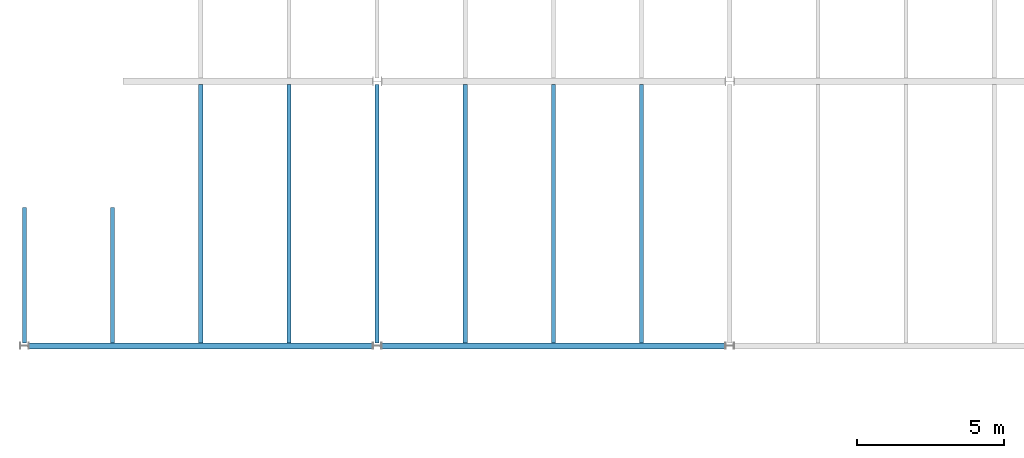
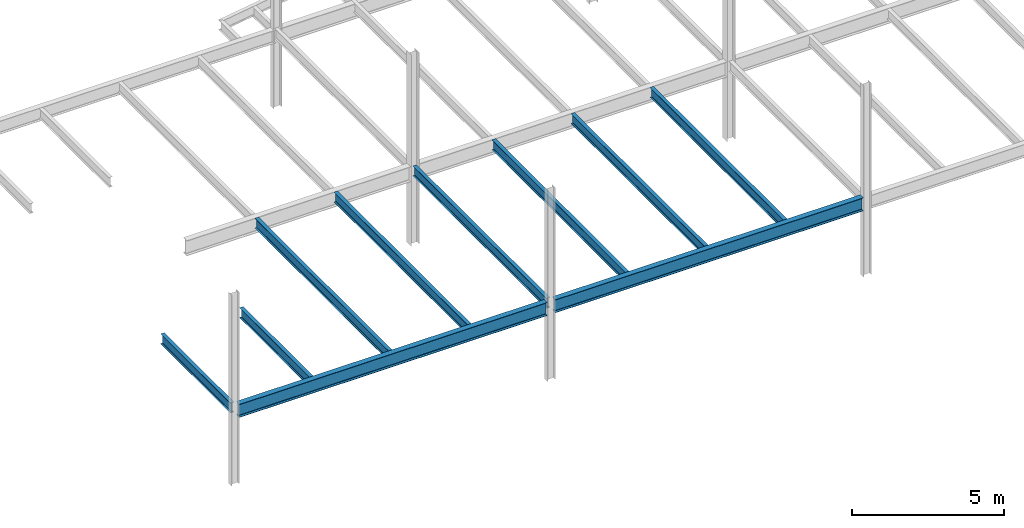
# One storey, part 3 of 23: 10 beams.
"""IFC2X3 building model written with IfcOpenShell, lengths in millimetres."""

from ifc_helpers import new_model, si_unit, origin, place, context, project, spatial, faceted_brep, material, element, save


model = new_model("IFC2X3")

# Units and contexts
context_of_model = context(None, 3, precision=1e-05, world=origin())
ifc_project = project(units=[si_unit("LENGTHUNIT", "METRE", prefix="MILLI")], contexts=[context_of_model])

# Building, storey
building = spatial("IfcBuilding", under=ifc_project, Name="Building", CompositionType="ELEMENT")
storey = spatial("IfcBuildingStorey", under=building, Name="FL5-FRM", CompositionType="ELEMENT")

# Beams
ifc_material_1 = material(Name="A992")
beam_1_placement = place(None, origin())
element("IfcBeam", 1, at=beam_1_placement, inside=storey, material=ifc_material_1, Name="Column412", context=context_of_model, shape_type="Brep", body=[
    faceted_brep([(-59848.5, 17895.5, 17345.0), (-59848.5, 18104.5, 17345.0), (-48153.0, 18104.5, 17345.0), (-48153.0, 17895.5, 17345.0), (-59848.5, 18104.5, 17358.3), (-48153.0, 18104.5, 17358.3), (-59848.5, 18017.4, 17358.3), (-48153.0, 18017.4, 17358.3), (-59848.5, 18014.2, 17358.7), (-48153.0, 18014.2, 17358.7), (-59848.5, 18011.1, 17360.0), (-48153.0, 18011.1, 17360.0), (-59848.5, 18008.5, 17362.0), (-48153.0, 18008.5, 17362.0), (-59848.5, 18006.5, 17364.7), (-48153.0, 18006.5, 17364.7), (-59848.5, 18005.2, 17367.7), (-48153.0, 18005.2, 17367.7), (-59848.5, 18004.8, 17371.0), (-48153.0, 18004.8, 17371.0), (-59848.5, 18004.8, 17847.0), (-48153.0, 18004.8, 17847.0), (-59848.5, 18005.2, 17850.3), (-48153.0, 18005.2, 17850.3), (-59848.5, 18006.5, 17853.3), (-48153.0, 18006.5, 17853.3), (-59848.5, 18008.5, 17856.0), (-48153.0, 18008.5, 17856.0), (-59848.5, 18011.1, 17858.0), (-48153.0, 18011.1, 17858.0), (-59848.5, 18014.2, 17859.3), (-48153.0, 18014.2, 17859.3), (-59848.5, 18017.4, 17859.7), (-48153.0, 18017.4, 17859.7), (-59848.5, 18104.5, 17859.7), (-48153.0, 18104.5, 17859.7), (-59848.5, 18104.5, 17873.0), (-48153.0, 18104.5, 17873.0), (-59848.5, 17895.5, 17873.0), (-48153.0, 17895.5, 17873.0), (-59848.5, 17895.5, 17859.7), (-48153.0, 17895.5, 17859.7), (-59848.5, 17982.6, 17859.7), (-48153.0, 17982.6, 17859.7), (-59848.5, 17985.8, 17859.3), (-48153.0, 17985.8, 17859.3), (-59848.5, 17988.9, 17858.0), (-48153.0, 17988.9, 17858.0), (-59848.5, 17991.5, 17856.0), (-48153.0, 17991.5, 17856.0), (-59848.5, 17993.5, 17853.3), (-48153.0, 17993.5, 17853.3), (-59848.5, 17994.8, 17850.3), (-48153.0, 17994.8, 17850.3), (-59848.5, 17995.3, 17847.0), (-48153.0, 17995.3, 17847.0), (-59848.5, 17995.3, 17371.0), (-48153.0, 17995.3, 17371.0), (-59848.5, 17994.8, 17367.7), (-48153.0, 17994.8, 17367.7), (-59848.5, 17993.5, 17364.7), (-48153.0, 17993.5, 17364.7), (-59848.5, 17991.5, 17362.0), (-48153.0, 17991.5, 17362.0), (-59848.5, 17988.9, 17360.0), (-48153.0, 17988.9, 17360.0), (-59848.5, 17985.8, 17358.7), (-48153.0, 17985.8, 17358.7), (-59848.5, 17982.6, 17358.3), (-48153.0, 17982.6, 17358.3), (-59848.5, 17895.5, 17358.3), (-48153.0, 17895.5, 17358.3)], [[[0, 1, 2, 3]], [[1, 4, 5, 2]], [[4, 6, 7, 5]], [[6, 8, 9, 7]], [[8, 10, 11, 9]], [[10, 12, 13, 11]], [[12, 14, 15, 13]], [[14, 16, 17, 15]], [[16, 18, 19, 17]], [[18, 20, 21, 19]], [[20, 22, 23, 21]], [[22, 24, 25, 23]], [[24, 26, 27, 25]], [[26, 28, 29, 27]], [[28, 30, 31, 29]], [[30, 32, 33, 31]], [[32, 34, 35, 33]], [[34, 36, 37, 35]], [[36, 38, 39, 37]], [[38, 40, 41, 39]], [[40, 42, 43, 41]], [[42, 44, 45, 43]], [[44, 46, 47, 45]], [[46, 48, 49, 47]], [[48, 50, 51, 49]], [[50, 52, 53, 51]], [[52, 54, 55, 53]], [[54, 56, 57, 55]], [[56, 58, 59, 57]], [[58, 60, 61, 59]], [[60, 62, 63, 61]], [[62, 64, 65, 63]], [[64, 66, 67, 65]], [[66, 68, 69, 67]], [[68, 70, 71, 69]], [[70, 0, 3, 71]], [[0, 70, 68, 66, 64, 62, 60, 58, 56, 54, 52, 50, 48, 46, 44, 42, 40, 38, 36, 34, 32, 30, 28, 26, 24, 22, 20, 18, 16, 14, 12, 10, 8, 6, 4, 1]], [[3, 2, 5, 7, 9, 11, 13, 15, 17, 19, 21, 23, 25, 27, 29, 31, 33, 35, 37, 39, 41, 43, 45, 47, 49, 51, 53, 55, 57, 59, 61, 63, 65, 67, 69, 71]]]),
])
ifc_material_2 = material(Name="A992")
beam_2_placement = place(None, origin())
element("IfcBeam", 2, at=beam_2_placement, inside=storey, material=ifc_material_2, Name="Column413", context=context_of_model, shape_type="Brep", body=[
    faceted_brep([(-47847.0, 17895.5, 17345.0), (-47847.0, 18104.5, 17345.0), (-36153.0, 18104.5, 17345.0), (-36153.0, 17895.5, 17345.0), (-47847.0, 18104.5, 17358.3), (-36153.0, 18104.5, 17358.3), (-47847.0, 18017.4, 17358.3), (-36153.0, 18017.4, 17358.3), (-47847.0, 18014.2, 17358.7), (-36153.0, 18014.2, 17358.7), (-47847.0, 18011.1, 17360.0), (-36153.0, 18011.1, 17360.0), (-47847.0, 18008.5, 17362.0), (-36153.0, 18008.5, 17362.0), (-47847.0, 18006.5, 17364.7), (-36153.0, 18006.5, 17364.7), (-47847.0, 18005.2, 17367.7), (-36153.0, 18005.2, 17367.7), (-47847.0, 18004.8, 17371.0), (-36153.0, 18004.8, 17371.0), (-47847.0, 18004.8, 17847.0), (-36153.0, 18004.8, 17847.0), (-47847.0, 18005.2, 17850.3), (-36153.0, 18005.2, 17850.3), (-47847.0, 18006.5, 17853.3), (-36153.0, 18006.5, 17853.3), (-47847.0, 18008.5, 17856.0), (-36153.0, 18008.5, 17856.0), (-47847.0, 18011.1, 17858.0), (-36153.0, 18011.1, 17858.0), (-47847.0, 18014.2, 17859.3), (-36153.0, 18014.2, 17859.3), (-47847.0, 18017.4, 17859.7), (-36153.0, 18017.4, 17859.7), (-47847.0, 18104.5, 17859.7), (-36153.0, 18104.5, 17859.7), (-47847.0, 18104.5, 17873.0), (-36153.0, 18104.5, 17873.0), (-47847.0, 17895.5, 17873.0), (-36153.0, 17895.5, 17873.0), (-47847.0, 17895.5, 17859.7), (-36153.0, 17895.5, 17859.7), (-47847.0, 17982.6, 17859.7), (-36153.0, 17982.6, 17859.7), (-47847.0, 17985.8, 17859.3), (-36153.0, 17985.8, 17859.3), (-47847.0, 17988.9, 17858.0), (-36153.0, 17988.9, 17858.0), (-47847.0, 17991.5, 17856.0), (-36153.0, 17991.5, 17856.0), (-47847.0, 17993.5, 17853.3), (-36153.0, 17993.5, 17853.3), (-47847.0, 17994.8, 17850.3), (-36153.0, 17994.8, 17850.3), (-47847.0, 17995.3, 17847.0), (-36153.0, 17995.3, 17847.0), (-47847.0, 17995.3, 17371.0), (-36153.0, 17995.3, 17371.0), (-47847.0, 17994.8, 17367.7), (-36153.0, 17994.8, 17367.7), (-47847.0, 17993.5, 17364.7), (-36153.0, 17993.5, 17364.7), (-47847.0, 17991.5, 17362.0), (-36153.0, 17991.5, 17362.0), (-47847.0, 17988.9, 17360.0), (-36153.0, 17988.9, 17360.0), (-47847.0, 17985.8, 17358.7), (-36153.0, 17985.8, 17358.7), (-47847.0, 17982.6, 17358.3), (-36153.0, 17982.6, 17358.3), (-47847.0, 17895.5, 17358.3), (-36153.0, 17895.5, 17358.3)], [[[0, 1, 2, 3]], [[1, 4, 5, 2]], [[4, 6, 7, 5]], [[6, 8, 9, 7]], [[8, 10, 11, 9]], [[10, 12, 13, 11]], [[12, 14, 15, 13]], [[14, 16, 17, 15]], [[16, 18, 19, 17]], [[18, 20, 21, 19]], [[20, 22, 23, 21]], [[22, 24, 25, 23]], [[24, 26, 27, 25]], [[26, 28, 29, 27]], [[28, 30, 31, 29]], [[30, 32, 33, 31]], [[32, 34, 35, 33]], [[34, 36, 37, 35]], [[36, 38, 39, 37]], [[38, 40, 41, 39]], [[40, 42, 43, 41]], [[42, 44, 45, 43]], [[44, 46, 47, 45]], [[46, 48, 49, 47]], [[48, 50, 51, 49]], [[50, 52, 53, 51]], [[52, 54, 55, 53]], [[54, 56, 57, 55]], [[56, 58, 59, 57]], [[58, 60, 61, 59]], [[60, 62, 63, 61]], [[62, 64, 65, 63]], [[64, 66, 67, 65]], [[66, 68, 69, 67]], [[68, 70, 71, 69]], [[70, 0, 3, 71]], [[0, 70, 68, 66, 64, 62, 60, 58, 56, 54, 52, 50, 48, 46, 44, 42, 40, 38, 36, 34, 32, 30, 28, 26, 24, 22, 20, 18, 16, 14, 12, 10, 8, 6, 4, 1]], [[3, 2, 5, 7, 9, 11, 13, 15, 17, 19, 21, 23, 25, 27, 29, 31, 33, 35, 37, 39, 41, 43, 45, 47, 49, 51, 53, 55, 57, 59, 61, 63, 65, 67, 69, 71]]]),
])
ifc_material_3 = material(Name="A992")
beam_3_placement = place(None, origin())
element("IfcBeam", 3, at=beam_3_placement, inside=storey, material=ifc_material_3, Name="B289", context=context_of_model, shape_type="Brep", body=[
    faceted_brep([(-47930.0, 18104.5, 17474.0), (-48070.0, 18104.5, 17474.0), (-48070.0, 26885.5, 17474.0), (-47930.0, 26885.5, 17474.0), (-48070.0, 18104.5, 17482.8), (-48070.0, 26885.5, 17482.8), (-48013.4, 18104.5, 17482.8), (-48013.4, 26885.5, 17482.8), (-48010.8, 18104.5, 17483.1), (-48010.8, 26885.5, 17483.1), (-48008.3, 18104.5, 17484.2), (-48008.3, 26885.5, 17484.2), (-48006.2, 18104.5, 17485.8), (-48006.2, 26885.5, 17485.8), (-48004.6, 18104.5, 17487.9), (-48004.6, 26885.5, 17487.9), (-48003.5, 18104.5, 17490.4), (-48003.5, 26885.5, 17490.4), (-48003.2, 18104.5, 17493.0), (-48003.2, 26885.5, 17493.0), (-48003.2, 18104.5, 17854.0), (-48003.2, 26885.5, 17854.0), (-48003.5, 18104.5, 17856.6), (-48003.5, 26885.5, 17856.6), (-48004.6, 18104.5, 17859.1), (-48004.6, 26885.5, 17859.1), (-48006.2, 18104.5, 17861.2), (-48006.2, 26885.5, 17861.2), (-48008.3, 18104.5, 17862.8), (-48008.3, 26885.5, 17862.8), (-48010.8, 18104.5, 17863.9), (-48010.8, 26885.5, 17863.9), (-48013.4, 18104.5, 17864.2), (-48013.4, 26885.5, 17864.2), (-48070.0, 18104.5, 17864.2), (-48070.0, 26885.5, 17864.2), (-48070.0, 18104.5, 17873.0), (-48070.0, 26885.5, 17873.0), (-47930.0, 18104.5, 17873.0), (-47930.0, 26885.5, 17873.0), (-47930.0, 18104.5, 17864.2), (-47930.0, 26885.5, 17864.2), (-47986.6, 18104.5, 17864.2), (-47986.6, 26885.5, 17864.2), (-47989.2, 18104.5, 17863.9), (-47989.2, 26885.5, 17863.9), (-47991.7, 18104.5, 17862.8), (-47991.7, 26885.5, 17862.8), (-47993.8, 18104.5, 17861.2), (-47993.8, 26885.5, 17861.2), (-47995.4, 18104.5, 17859.1), (-47995.4, 26885.5, 17859.1), (-47996.5, 18104.5, 17856.6), (-47996.5, 26885.5, 17856.6), (-47996.8, 18104.5, 17854.0), (-47996.8, 26885.5, 17854.0), (-47996.8, 18104.5, 17493.0), (-47996.8, 26885.5, 17493.0), (-47996.5, 18104.5, 17490.4), (-47996.5, 26885.5, 17490.4), (-47995.4, 18104.5, 17487.9), (-47995.4, 26885.5, 17487.9), (-47993.8, 18104.5, 17485.8), (-47993.8, 26885.5, 17485.8), (-47991.7, 18104.5, 17484.2), (-47991.7, 26885.5, 17484.2), (-47989.2, 18104.5, 17483.1), (-47989.2, 26885.5, 17483.1), (-47986.6, 18104.5, 17482.8), (-47986.6, 26885.5, 17482.8), (-47930.0, 18104.5, 17482.8), (-47930.0, 26885.5, 17482.8)], [[[0, 1, 2, 3]], [[1, 4, 5, 2]], [[4, 6, 7, 5]], [[6, 8, 9, 7]], [[8, 10, 11, 9]], [[10, 12, 13, 11]], [[12, 14, 15, 13]], [[14, 16, 17, 15]], [[16, 18, 19, 17]], [[18, 20, 21, 19]], [[20, 22, 23, 21]], [[22, 24, 25, 23]], [[24, 26, 27, 25]], [[26, 28, 29, 27]], [[28, 30, 31, 29]], [[30, 32, 33, 31]], [[32, 34, 35, 33]], [[34, 36, 37, 35]], [[36, 38, 39, 37]], [[38, 40, 41, 39]], [[40, 42, 43, 41]], [[42, 44, 45, 43]], [[44, 46, 47, 45]], [[46, 48, 49, 47]], [[48, 50, 51, 49]], [[50, 52, 53, 51]], [[52, 54, 55, 53]], [[54, 56, 57, 55]], [[56, 58, 59, 57]], [[58, 60, 61, 59]], [[60, 62, 63, 61]], [[62, 64, 65, 63]], [[64, 66, 67, 65]], [[66, 68, 69, 67]], [[68, 70, 71, 69]], [[70, 0, 3, 71]], [[0, 70, 68, 66, 64, 62, 60, 58, 56, 54, 52, 50, 48, 46, 44, 42, 40, 38, 36, 34, 32, 30, 28, 26, 24, 22, 20, 18, 16, 14, 12, 10, 8, 6, 4, 1]], [[3, 2, 5, 7, 9, 11, 13, 15, 17, 19, 21, 23, 25, 27, 29, 31, 33, 35, 37, 39, 41, 43, 45, 47, 49, 51, 53, 55, 57, 59, 61, 63, 65, 67, 69, 71]]]),
])
ifc_material_4 = material(Name="A992")
beam_4_placement = place(None, origin())
element("IfcBeam", 4, at=beam_4_placement, inside=storey, material=ifc_material_4, Name="B290", context=context_of_model, shape_type="Brep", body=[
    faceted_brep([(-44930.0, 18104.5, 17474.0), (-45070.0, 18104.5, 17474.0), (-45070.0, 26885.5, 17474.0), (-44930.0, 26885.5, 17474.0), (-45070.0, 18104.5, 17482.8), (-45070.0, 26885.5, 17482.8), (-45013.4, 18104.5, 17482.8), (-45013.4, 26885.5, 17482.8), (-45010.8, 18104.5, 17483.1), (-45010.8, 26885.5, 17483.1), (-45008.3, 18104.5, 17484.2), (-45008.3, 26885.5, 17484.2), (-45006.2, 18104.5, 17485.8), (-45006.2, 26885.5, 17485.8), (-45004.6, 18104.5, 17487.9), (-45004.6, 26885.5, 17487.9), (-45003.5, 18104.5, 17490.4), (-45003.5, 26885.5, 17490.4), (-45003.2, 18104.5, 17493.0), (-45003.2, 26885.5, 17493.0), (-45003.2, 18104.5, 17854.0), (-45003.2, 26885.5, 17854.0), (-45003.5, 18104.5, 17856.6), (-45003.5, 26885.5, 17856.6), (-45004.6, 18104.5, 17859.1), (-45004.6, 26885.5, 17859.1), (-45006.2, 18104.5, 17861.2), (-45006.2, 26885.5, 17861.2), (-45008.3, 18104.5, 17862.8), (-45008.3, 26885.5, 17862.8), (-45010.8, 18104.5, 17863.9), (-45010.8, 26885.5, 17863.9), (-45013.4, 18104.5, 17864.2), (-45013.4, 26885.5, 17864.2), (-45070.0, 18104.5, 17864.2), (-45070.0, 26885.5, 17864.2), (-45070.0, 18104.5, 17873.0), (-45070.0, 26885.5, 17873.0), (-44930.0, 18104.5, 17873.0), (-44930.0, 26885.5, 17873.0), (-44930.0, 18104.5, 17864.2), (-44930.0, 26885.5, 17864.2), (-44986.6, 18104.5, 17864.2), (-44986.6, 26885.5, 17864.2), (-44989.2, 18104.5, 17863.9), (-44989.2, 26885.5, 17863.9), (-44991.7, 18104.5, 17862.8), (-44991.7, 26885.5, 17862.8), (-44993.8, 18104.5, 17861.2), (-44993.8, 26885.5, 17861.2), (-44995.4, 18104.5, 17859.1), (-44995.4, 26885.5, 17859.1), (-44996.5, 18104.5, 17856.6), (-44996.5, 26885.5, 17856.6), (-44996.8, 18104.5, 17854.0), (-44996.8, 26885.5, 17854.0), (-44996.8, 18104.5, 17493.0), (-44996.8, 26885.5, 17493.0), (-44996.5, 18104.5, 17490.4), (-44996.5, 26885.5, 17490.4), (-44995.4, 18104.5, 17487.9), (-44995.4, 26885.5, 17487.9), (-44993.8, 18104.5, 17485.8), (-44993.8, 26885.5, 17485.8), (-44991.7, 18104.5, 17484.2), (-44991.7, 26885.5, 17484.2), (-44989.2, 18104.5, 17483.1), (-44989.2, 26885.5, 17483.1), (-44986.6, 18104.5, 17482.8), (-44986.6, 26885.5, 17482.8), (-44930.0, 18104.5, 17482.8), (-44930.0, 26885.5, 17482.8)], [[[0, 1, 2, 3]], [[1, 4, 5, 2]], [[4, 6, 7, 5]], [[6, 8, 9, 7]], [[8, 10, 11, 9]], [[10, 12, 13, 11]], [[12, 14, 15, 13]], [[14, 16, 17, 15]], [[16, 18, 19, 17]], [[18, 20, 21, 19]], [[20, 22, 23, 21]], [[22, 24, 25, 23]], [[24, 26, 27, 25]], [[26, 28, 29, 27]], [[28, 30, 31, 29]], [[30, 32, 33, 31]], [[32, 34, 35, 33]], [[34, 36, 37, 35]], [[36, 38, 39, 37]], [[38, 40, 41, 39]], [[40, 42, 43, 41]], [[42, 44, 45, 43]], [[44, 46, 47, 45]], [[46, 48, 49, 47]], [[48, 50, 51, 49]], [[50, 52, 53, 51]], [[52, 54, 55, 53]], [[54, 56, 57, 55]], [[56, 58, 59, 57]], [[58, 60, 61, 59]], [[60, 62, 63, 61]], [[62, 64, 65, 63]], [[64, 66, 67, 65]], [[66, 68, 69, 67]], [[68, 70, 71, 69]], [[70, 0, 3, 71]], [[0, 70, 68, 66, 64, 62, 60, 58, 56, 54, 52, 50, 48, 46, 44, 42, 40, 38, 36, 34, 32, 30, 28, 26, 24, 22, 20, 18, 16, 14, 12, 10, 8, 6, 4, 1]], [[3, 2, 5, 7, 9, 11, 13, 15, 17, 19, 21, 23, 25, 27, 29, 31, 33, 35, 37, 39, 41, 43, 45, 47, 49, 51, 53, 55, 57, 59, 61, 63, 65, 67, 69, 71]]]),
])
ifc_material_5 = material(Name="A992")
beam_5_placement = place(None, origin())
element("IfcBeam", 5, at=beam_5_placement, inside=storey, material=ifc_material_5, Name="B291", context=context_of_model, shape_type="Brep", body=[
    faceted_brep([(-41930.0, 18104.5, 17474.0), (-42070.0, 18104.5, 17474.0), (-42070.0, 26885.5, 17474.0), (-41930.0, 26885.5, 17474.0), (-42070.0, 18104.5, 17482.8), (-42070.0, 26885.5, 17482.8), (-42013.4, 18104.5, 17482.8), (-42013.4, 26885.5, 17482.8), (-42010.8, 18104.5, 17483.1), (-42010.8, 26885.5, 17483.1), (-42008.3, 18104.5, 17484.2), (-42008.3, 26885.5, 17484.2), (-42006.2, 18104.5, 17485.8), (-42006.2, 26885.5, 17485.8), (-42004.6, 18104.5, 17487.9), (-42004.6, 26885.5, 17487.9), (-42003.5, 18104.5, 17490.4), (-42003.5, 26885.5, 17490.4), (-42003.2, 18104.5, 17493.0), (-42003.2, 26885.5, 17493.0), (-42003.2, 18104.5, 17854.0), (-42003.2, 26885.5, 17854.0), (-42003.5, 18104.5, 17856.6), (-42003.5, 26885.5, 17856.6), (-42004.6, 18104.5, 17859.1), (-42004.6, 26885.5, 17859.1), (-42006.2, 18104.5, 17861.2), (-42006.2, 26885.5, 17861.2), (-42008.3, 18104.5, 17862.8), (-42008.3, 26885.5, 17862.8), (-42010.8, 18104.5, 17863.9), (-42010.8, 26885.5, 17863.9), (-42013.4, 18104.5, 17864.2), (-42013.4, 26885.5, 17864.2), (-42070.0, 18104.5, 17864.2), (-42070.0, 26885.5, 17864.2), (-42070.0, 18104.5, 17873.0), (-42070.0, 26885.5, 17873.0), (-41930.0, 18104.5, 17873.0), (-41930.0, 26885.5, 17873.0), (-41930.0, 18104.5, 17864.2), (-41930.0, 26885.5, 17864.2), (-41986.6, 18104.5, 17864.2), (-41986.6, 26885.5, 17864.2), (-41989.2, 18104.5, 17863.9), (-41989.2, 26885.5, 17863.9), (-41991.7, 18104.5, 17862.8), (-41991.7, 26885.5, 17862.8), (-41993.8, 18104.5, 17861.2), (-41993.8, 26885.5, 17861.2), (-41995.4, 18104.5, 17859.1), (-41995.4, 26885.5, 17859.1), (-41996.5, 18104.5, 17856.6), (-41996.5, 26885.5, 17856.6), (-41996.8, 18104.5, 17854.0), (-41996.8, 26885.5, 17854.0), (-41996.8, 18104.5, 17493.0), (-41996.8, 26885.5, 17493.0), (-41996.5, 18104.5, 17490.4), (-41996.5, 26885.5, 17490.4), (-41995.4, 18104.5, 17487.9), (-41995.4, 26885.5, 17487.9), (-41993.8, 18104.5, 17485.8), (-41993.8, 26885.5, 17485.8), (-41991.7, 18104.5, 17484.2), (-41991.7, 26885.5, 17484.2), (-41989.2, 18104.5, 17483.1), (-41989.2, 26885.5, 17483.1), (-41986.6, 18104.5, 17482.8), (-41986.6, 26885.5, 17482.8), (-41930.0, 18104.5, 17482.8), (-41930.0, 26885.5, 17482.8)], [[[0, 1, 2, 3]], [[1, 4, 5, 2]], [[4, 6, 7, 5]], [[6, 8, 9, 7]], [[8, 10, 11, 9]], [[10, 12, 13, 11]], [[12, 14, 15, 13]], [[14, 16, 17, 15]], [[16, 18, 19, 17]], [[18, 20, 21, 19]], [[20, 22, 23, 21]], [[22, 24, 25, 23]], [[24, 26, 27, 25]], [[26, 28, 29, 27]], [[28, 30, 31, 29]], [[30, 32, 33, 31]], [[32, 34, 35, 33]], [[34, 36, 37, 35]], [[36, 38, 39, 37]], [[38, 40, 41, 39]], [[40, 42, 43, 41]], [[42, 44, 45, 43]], [[44, 46, 47, 45]], [[46, 48, 49, 47]], [[48, 50, 51, 49]], [[50, 52, 53, 51]], [[52, 54, 55, 53]], [[54, 56, 57, 55]], [[56, 58, 59, 57]], [[58, 60, 61, 59]], [[60, 62, 63, 61]], [[62, 64, 65, 63]], [[64, 66, 67, 65]], [[66, 68, 69, 67]], [[68, 70, 71, 69]], [[70, 0, 3, 71]], [[0, 70, 68, 66, 64, 62, 60, 58, 56, 54, 52, 50, 48, 46, 44, 42, 40, 38, 36, 34, 32, 30, 28, 26, 24, 22, 20, 18, 16, 14, 12, 10, 8, 6, 4, 1]], [[3, 2, 5, 7, 9, 11, 13, 15, 17, 19, 21, 23, 25, 27, 29, 31, 33, 35, 37, 39, 41, 43, 45, 47, 49, 51, 53, 55, 57, 59, 61, 63, 65, 67, 69, 71]]]),
])
ifc_material_6 = material(Name="A992")
beam_6_placement = place(None, origin())
element("IfcBeam", 6, at=beam_6_placement, inside=storey, material=ifc_material_6, Name="B292", context=context_of_model, shape_type="Brep", body=[
    faceted_brep([(-38930.0, 18104.5, 17474.0), (-39070.0, 18104.5, 17474.0), (-39070.0, 26885.5, 17474.0), (-38930.0, 26885.5, 17474.0), (-39070.0, 18104.5, 17482.8), (-39070.0, 26885.5, 17482.8), (-39013.4, 18104.5, 17482.8), (-39013.4, 26885.5, 17482.8), (-39010.8, 18104.5, 17483.1), (-39010.8, 26885.5, 17483.1), (-39008.3, 18104.5, 17484.2), (-39008.3, 26885.5, 17484.2), (-39006.2, 18104.5, 17485.8), (-39006.2, 26885.5, 17485.8), (-39004.6, 18104.5, 17487.9), (-39004.6, 26885.5, 17487.9), (-39003.5, 18104.5, 17490.4), (-39003.5, 26885.5, 17490.4), (-39003.2, 18104.5, 17493.0), (-39003.2, 26885.5, 17493.0), (-39003.2, 18104.5, 17854.0), (-39003.2, 26885.5, 17854.0), (-39003.5, 18104.5, 17856.6), (-39003.5, 26885.5, 17856.6), (-39004.6, 18104.5, 17859.1), (-39004.6, 26885.5, 17859.1), (-39006.2, 18104.5, 17861.2), (-39006.2, 26885.5, 17861.2), (-39008.3, 18104.5, 17862.8), (-39008.3, 26885.5, 17862.8), (-39010.8, 18104.5, 17863.9), (-39010.8, 26885.5, 17863.9), (-39013.4, 18104.5, 17864.2), (-39013.4, 26885.5, 17864.2), (-39070.0, 18104.5, 17864.2), (-39070.0, 26885.5, 17864.2), (-39070.0, 18104.5, 17873.0), (-39070.0, 26885.5, 17873.0), (-38930.0, 18104.5, 17873.0), (-38930.0, 26885.5, 17873.0), (-38930.0, 18104.5, 17864.2), (-38930.0, 26885.5, 17864.2), (-38986.6, 18104.5, 17864.2), (-38986.6, 26885.5, 17864.2), (-38989.2, 18104.5, 17863.9), (-38989.2, 26885.5, 17863.9), (-38991.7, 18104.5, 17862.8), (-38991.7, 26885.5, 17862.8), (-38993.8, 18104.5, 17861.2), (-38993.8, 26885.5, 17861.2), (-38995.4, 18104.5, 17859.1), (-38995.4, 26885.5, 17859.1), (-38996.5, 18104.5, 17856.6), (-38996.5, 26885.5, 17856.6), (-38996.8, 18104.5, 17854.0), (-38996.8, 26885.5, 17854.0), (-38996.8, 18104.5, 17493.0), (-38996.8, 26885.5, 17493.0), (-38996.5, 18104.5, 17490.4), (-38996.5, 26885.5, 17490.4), (-38995.4, 18104.5, 17487.9), (-38995.4, 26885.5, 17487.9), (-38993.8, 18104.5, 17485.8), (-38993.8, 26885.5, 17485.8), (-38991.7, 18104.5, 17484.2), (-38991.7, 26885.5, 17484.2), (-38989.2, 18104.5, 17483.1), (-38989.2, 26885.5, 17483.1), (-38986.6, 18104.5, 17482.8), (-38986.6, 26885.5, 17482.8), (-38930.0, 18104.5, 17482.8), (-38930.0, 26885.5, 17482.8)], [[[0, 1, 2, 3]], [[1, 4, 5, 2]], [[4, 6, 7, 5]], [[6, 8, 9, 7]], [[8, 10, 11, 9]], [[10, 12, 13, 11]], [[12, 14, 15, 13]], [[14, 16, 17, 15]], [[16, 18, 19, 17]], [[18, 20, 21, 19]], [[20, 22, 23, 21]], [[22, 24, 25, 23]], [[24, 26, 27, 25]], [[26, 28, 29, 27]], [[28, 30, 31, 29]], [[30, 32, 33, 31]], [[32, 34, 35, 33]], [[34, 36, 37, 35]], [[36, 38, 39, 37]], [[38, 40, 41, 39]], [[40, 42, 43, 41]], [[42, 44, 45, 43]], [[44, 46, 47, 45]], [[46, 48, 49, 47]], [[48, 50, 51, 49]], [[50, 52, 53, 51]], [[52, 54, 55, 53]], [[54, 56, 57, 55]], [[56, 58, 59, 57]], [[58, 60, 61, 59]], [[60, 62, 63, 61]], [[62, 64, 65, 63]], [[64, 66, 67, 65]], [[66, 68, 69, 67]], [[68, 70, 71, 69]], [[70, 0, 3, 71]], [[0, 70, 68, 66, 64, 62, 60, 58, 56, 54, 52, 50, 48, 46, 44, 42, 40, 38, 36, 34, 32, 30, 28, 26, 24, 22, 20, 18, 16, 14, 12, 10, 8, 6, 4, 1]], [[3, 2, 5, 7, 9, 11, 13, 15, 17, 19, 21, 23, 25, 27, 29, 31, 33, 35, 37, 39, 41, 43, 45, 47, 49, 51, 53, 55, 57, 59, 61, 63, 65, 67, 69, 71]]]),
])
ifc_material_7 = material(Name="A992")
beam_7_placement = place(None, origin())
element("IfcBeam", 7, at=beam_7_placement, inside=storey, material=ifc_material_7, Name="B296", context=context_of_model, shape_type="Brep", body=[
    faceted_brep([(-50930.0, 18104.5, 17474.0), (-51070.0, 18104.5, 17474.0), (-51070.0, 26885.5, 17474.0), (-50930.0, 26885.5, 17474.0), (-51070.0, 18104.5, 17482.8), (-51070.0, 26885.5, 17482.8), (-51013.4, 18104.5, 17482.8), (-51013.4, 26885.5, 17482.8), (-51010.8, 18104.5, 17483.1), (-51010.8, 26885.5, 17483.1), (-51008.3, 18104.5, 17484.2), (-51008.3, 26885.5, 17484.2), (-51006.2, 18104.5, 17485.8), (-51006.2, 26885.5, 17485.8), (-51004.6, 18104.5, 17487.9), (-51004.6, 26885.5, 17487.9), (-51003.5, 18104.5, 17490.4), (-51003.5, 26885.5, 17490.4), (-51003.2, 18104.5, 17493.0), (-51003.2, 26885.5, 17493.0), (-51003.2, 18104.5, 17854.0), (-51003.2, 26885.5, 17854.0), (-51003.5, 18104.5, 17856.6), (-51003.5, 26885.5, 17856.6), (-51004.6, 18104.5, 17859.1), (-51004.6, 26885.5, 17859.1), (-51006.2, 18104.5, 17861.2), (-51006.2, 26885.5, 17861.2), (-51008.3, 18104.5, 17862.8), (-51008.3, 26885.5, 17862.8), (-51010.8, 18104.5, 17863.9), (-51010.8, 26885.5, 17863.9), (-51013.4, 18104.5, 17864.2), (-51013.4, 26885.5, 17864.2), (-51070.0, 18104.5, 17864.2), (-51070.0, 26885.5, 17864.2), (-51070.0, 18104.5, 17873.0), (-51070.0, 26885.5, 17873.0), (-50930.0, 18104.5, 17873.0), (-50930.0, 26885.5, 17873.0), (-50930.0, 18104.5, 17864.2), (-50930.0, 26885.5, 17864.2), (-50986.6, 18104.5, 17864.2), (-50986.6, 26885.5, 17864.2), (-50989.2, 18104.5, 17863.9), (-50989.2, 26885.5, 17863.9), (-50991.7, 18104.5, 17862.8), (-50991.7, 26885.5, 17862.8), (-50993.8, 18104.5, 17861.2), (-50993.8, 26885.5, 17861.2), (-50995.4, 18104.5, 17859.1), (-50995.4, 26885.5, 17859.1), (-50996.5, 18104.5, 17856.6), (-50996.5, 26885.5, 17856.6), (-50996.8, 18104.5, 17854.0), (-50996.8, 26885.5, 17854.0), (-50996.8, 18104.5, 17493.0), (-50996.8, 26885.5, 17493.0), (-50996.5, 18104.5, 17490.4), (-50996.5, 26885.5, 17490.4), (-50995.4, 18104.5, 17487.9), (-50995.4, 26885.5, 17487.9), (-50993.8, 18104.5, 17485.8), (-50993.8, 26885.5, 17485.8), (-50991.7, 18104.5, 17484.2), (-50991.7, 26885.5, 17484.2), (-50989.2, 18104.5, 17483.1), (-50989.2, 26885.5, 17483.1), (-50986.6, 18104.5, 17482.8), (-50986.6, 26885.5, 17482.8), (-50930.0, 18104.5, 17482.8), (-50930.0, 26885.5, 17482.8)], [[[0, 1, 2, 3]], [[1, 4, 5, 2]], [[4, 6, 7, 5]], [[6, 8, 9, 7]], [[8, 10, 11, 9]], [[10, 12, 13, 11]], [[12, 14, 15, 13]], [[14, 16, 17, 15]], [[16, 18, 19, 17]], [[18, 20, 21, 19]], [[20, 22, 23, 21]], [[22, 24, 25, 23]], [[24, 26, 27, 25]], [[26, 28, 29, 27]], [[28, 30, 31, 29]], [[30, 32, 33, 31]], [[32, 34, 35, 33]], [[34, 36, 37, 35]], [[36, 38, 39, 37]], [[38, 40, 41, 39]], [[40, 42, 43, 41]], [[42, 44, 45, 43]], [[44, 46, 47, 45]], [[46, 48, 49, 47]], [[48, 50, 51, 49]], [[50, 52, 53, 51]], [[52, 54, 55, 53]], [[54, 56, 57, 55]], [[56, 58, 59, 57]], [[58, 60, 61, 59]], [[60, 62, 63, 61]], [[62, 64, 65, 63]], [[64, 66, 67, 65]], [[66, 68, 69, 67]], [[68, 70, 71, 69]], [[70, 0, 3, 71]], [[0, 70, 68, 66, 64, 62, 60, 58, 56, 54, 52, 50, 48, 46, 44, 42, 40, 38, 36, 34, 32, 30, 28, 26, 24, 22, 20, 18, 16, 14, 12, 10, 8, 6, 4, 1]], [[3, 2, 5, 7, 9, 11, 13, 15, 17, 19, 21, 23, 25, 27, 29, 31, 33, 35, 37, 39, 41, 43, 45, 47, 49, 51, 53, 55, 57, 59, 61, 63, 65, 67, 69, 71]]]),
])
ifc_material_8 = material(Name="A992")
beam_8_placement = place(None, origin())
element("IfcBeam", 8, at=beam_8_placement, inside=storey, material=ifc_material_8, Name="B297", context=context_of_model, shape_type="Brep", body=[
    faceted_brep([(-53930.0, 18104.5, 17474.0), (-54070.0, 18104.5, 17474.0), (-54070.0, 26885.5, 17474.0), (-53930.0, 26885.5, 17474.0), (-54070.0, 18104.5, 17482.8), (-54070.0, 26885.5, 17482.8), (-54013.4, 18104.5, 17482.8), (-54013.4, 26885.5, 17482.8), (-54010.8, 18104.5, 17483.1), (-54010.8, 26885.5, 17483.1), (-54008.3, 18104.5, 17484.2), (-54008.3, 26885.5, 17484.2), (-54006.2, 18104.5, 17485.8), (-54006.2, 26885.5, 17485.8), (-54004.6, 18104.5, 17487.9), (-54004.6, 26885.5, 17487.9), (-54003.5, 18104.5, 17490.4), (-54003.5, 26885.5, 17490.4), (-54003.2, 18104.5, 17493.0), (-54003.2, 26885.5, 17493.0), (-54003.2, 18104.5, 17854.0), (-54003.2, 26885.5, 17854.0), (-54003.5, 18104.5, 17856.6), (-54003.5, 26885.5, 17856.6), (-54004.6, 18104.5, 17859.1), (-54004.6, 26885.5, 17859.1), (-54006.2, 18104.5, 17861.2), (-54006.2, 26885.5, 17861.2), (-54008.3, 18104.5, 17862.8), (-54008.3, 26885.5, 17862.8), (-54010.8, 18104.5, 17863.9), (-54010.8, 26885.5, 17863.9), (-54013.4, 18104.5, 17864.2), (-54013.4, 26885.5, 17864.2), (-54070.0, 18104.5, 17864.2), (-54070.0, 26885.5, 17864.2), (-54070.0, 18104.5, 17873.0), (-54070.0, 26885.5, 17873.0), (-53930.0, 18104.5, 17873.0), (-53930.0, 26885.5, 17873.0), (-53930.0, 18104.5, 17864.2), (-53930.0, 26885.5, 17864.2), (-53986.6, 18104.5, 17864.2), (-53986.6, 26885.5, 17864.2), (-53989.2, 18104.5, 17863.9), (-53989.2, 26885.5, 17863.9), (-53991.7, 18104.5, 17862.8), (-53991.7, 26885.5, 17862.8), (-53993.8, 18104.5, 17861.2), (-53993.8, 26885.5, 17861.2), (-53995.4, 18104.5, 17859.1), (-53995.4, 26885.5, 17859.1), (-53996.5, 18104.5, 17856.6), (-53996.5, 26885.5, 17856.6), (-53996.8, 18104.5, 17854.0), (-53996.8, 26885.5, 17854.0), (-53996.8, 18104.5, 17493.0), (-53996.8, 26885.5, 17493.0), (-53996.5, 18104.5, 17490.4), (-53996.5, 26885.5, 17490.4), (-53995.4, 18104.5, 17487.9), (-53995.4, 26885.5, 17487.9), (-53993.8, 18104.5, 17485.8), (-53993.8, 26885.5, 17485.8), (-53991.7, 18104.5, 17484.2), (-53991.7, 26885.5, 17484.2), (-53989.2, 18104.5, 17483.1), (-53989.2, 26885.5, 17483.1), (-53986.6, 18104.5, 17482.8), (-53986.6, 26885.5, 17482.8), (-53930.0, 18104.5, 17482.8), (-53930.0, 26885.5, 17482.8)], [[[0, 1, 2, 3]], [[1, 4, 5, 2]], [[4, 6, 7, 5]], [[6, 8, 9, 7]], [[8, 10, 11, 9]], [[10, 12, 13, 11]], [[12, 14, 15, 13]], [[14, 16, 17, 15]], [[16, 18, 19, 17]], [[18, 20, 21, 19]], [[20, 22, 23, 21]], [[22, 24, 25, 23]], [[24, 26, 27, 25]], [[26, 28, 29, 27]], [[28, 30, 31, 29]], [[30, 32, 33, 31]], [[32, 34, 35, 33]], [[34, 36, 37, 35]], [[36, 38, 39, 37]], [[38, 40, 41, 39]], [[40, 42, 43, 41]], [[42, 44, 45, 43]], [[44, 46, 47, 45]], [[46, 48, 49, 47]], [[48, 50, 51, 49]], [[50, 52, 53, 51]], [[52, 54, 55, 53]], [[54, 56, 57, 55]], [[56, 58, 59, 57]], [[58, 60, 61, 59]], [[60, 62, 63, 61]], [[62, 64, 65, 63]], [[64, 66, 67, 65]], [[66, 68, 69, 67]], [[68, 70, 71, 69]], [[70, 0, 3, 71]], [[0, 70, 68, 66, 64, 62, 60, 58, 56, 54, 52, 50, 48, 46, 44, 42, 40, 38, 36, 34, 32, 30, 28, 26, 24, 22, 20, 18, 16, 14, 12, 10, 8, 6, 4, 1]], [[3, 2, 5, 7, 9, 11, 13, 15, 17, 19, 21, 23, 25, 27, 29, 31, 33, 35, 37, 39, 41, 43, 45, 47, 49, 51, 53, 55, 57, 59, 61, 63, 65, 67, 69, 71]]]),
])
ifc_material_9 = material(Name="A992")
beam_9_placement = place(None, origin())
element("IfcBeam", 9, at=beam_9_placement, inside=storey, material=ifc_material_9, Name="B960", context=context_of_model, shape_type="Brep", body=[
    faceted_brep([(-56930.0, 18104.5, 17474.0), (-57070.0, 18104.5, 17474.0), (-57070.0, 22700.0, 17474.0), (-56930.0, 22700.0, 17474.0), (-57070.0, 18104.5, 17482.8), (-57070.0, 22700.0, 17482.8), (-57013.4, 18104.5, 17482.8), (-57013.4, 22700.0, 17482.8), (-57010.8, 18104.5, 17483.1), (-57010.8, 22700.0, 17483.1), (-57008.3, 18104.5, 17484.2), (-57008.3, 22700.0, 17484.2), (-57006.2, 18104.5, 17485.8), (-57006.2, 22700.0, 17485.8), (-57004.6, 18104.5, 17487.9), (-57004.6, 22700.0, 17487.9), (-57003.5, 18104.5, 17490.4), (-57003.5, 22700.0, 17490.4), (-57003.2, 18104.5, 17493.0), (-57003.2, 22700.0, 17493.0), (-57003.2, 18104.5, 17854.0), (-57003.2, 22700.0, 17854.0), (-57003.5, 18104.5, 17856.6), (-57003.5, 22700.0, 17856.6), (-57004.6, 18104.5, 17859.1), (-57004.6, 22700.0, 17859.1), (-57006.2, 18104.5, 17861.2), (-57006.2, 22700.0, 17861.2), (-57008.3, 18104.5, 17862.8), (-57008.3, 22700.0, 17862.8), (-57010.8, 18104.5, 17863.9), (-57010.8, 22700.0, 17863.9), (-57013.4, 18104.5, 17864.2), (-57013.4, 22700.0, 17864.2), (-57070.0, 18104.5, 17864.2), (-57070.0, 22700.0, 17864.2), (-57070.0, 18104.5, 17873.0), (-57070.0, 22700.0, 17873.0), (-56930.0, 18104.5, 17873.0), (-56930.0, 22700.0, 17873.0), (-56930.0, 18104.5, 17864.2), (-56930.0, 22700.0, 17864.2), (-56986.6, 18104.5, 17864.2), (-56986.6, 22700.0, 17864.2), (-56989.2, 18104.5, 17863.9), (-56989.2, 22700.0, 17863.9), (-56991.7, 18104.5, 17862.8), (-56991.7, 22700.0, 17862.8), (-56993.8, 18104.5, 17861.2), (-56993.8, 22700.0, 17861.2), (-56995.4, 18104.5, 17859.1), (-56995.4, 22700.0, 17859.1), (-56996.5, 18104.5, 17856.6), (-56996.5, 22700.0, 17856.6), (-56996.8, 18104.5, 17854.0), (-56996.8, 22700.0, 17854.0), (-56996.8, 18104.5, 17493.0), (-56996.8, 22700.0, 17493.0), (-56996.5, 18104.5, 17490.4), (-56996.5, 22700.0, 17490.4), (-56995.4, 18104.5, 17487.9), (-56995.4, 22700.0, 17487.9), (-56993.8, 18104.5, 17485.8), (-56993.8, 22700.0, 17485.8), (-56991.7, 18104.5, 17484.2), (-56991.7, 22700.0, 17484.2), (-56989.2, 18104.5, 17483.1), (-56989.2, 22700.0, 17483.1), (-56986.6, 18104.5, 17482.8), (-56986.6, 22700.0, 17482.8), (-56930.0, 18104.5, 17482.8), (-56930.0, 22700.0, 17482.8)], [[[0, 1, 2, 3]], [[1, 4, 5, 2]], [[4, 6, 7, 5]], [[6, 8, 9, 7]], [[8, 10, 11, 9]], [[10, 12, 13, 11]], [[12, 14, 15, 13]], [[14, 16, 17, 15]], [[16, 18, 19, 17]], [[18, 20, 21, 19]], [[20, 22, 23, 21]], [[22, 24, 25, 23]], [[24, 26, 27, 25]], [[26, 28, 29, 27]], [[28, 30, 31, 29]], [[30, 32, 33, 31]], [[32, 34, 35, 33]], [[34, 36, 37, 35]], [[36, 38, 39, 37]], [[38, 40, 41, 39]], [[40, 42, 43, 41]], [[42, 44, 45, 43]], [[44, 46, 47, 45]], [[46, 48, 49, 47]], [[48, 50, 51, 49]], [[50, 52, 53, 51]], [[52, 54, 55, 53]], [[54, 56, 57, 55]], [[56, 58, 59, 57]], [[58, 60, 61, 59]], [[60, 62, 63, 61]], [[62, 64, 65, 63]], [[64, 66, 67, 65]], [[66, 68, 69, 67]], [[68, 70, 71, 69]], [[70, 0, 3, 71]], [[0, 70, 68, 66, 64, 62, 60, 58, 56, 54, 52, 50, 48, 46, 44, 42, 40, 38, 36, 34, 32, 30, 28, 26, 24, 22, 20, 18, 16, 14, 12, 10, 8, 6, 4, 1]], [[3, 2, 5, 7, 9, 11, 13, 15, 17, 19, 21, 23, 25, 27, 29, 31, 33, 35, 37, 39, 41, 43, 45, 47, 49, 51, 53, 55, 57, 59, 61, 63, 65, 67, 69, 71]]]),
])
ifc_material_10 = material(Name="A992")
beam_10_placement = place(None, origin())
element("IfcBeam", 10, at=beam_10_placement, inside=storey, material=ifc_material_10, Name="B962", context=context_of_model, shape_type="Brep", body=[
    faceted_brep([(-59930.0, 18104.5, 17474.0), (-60070.0, 18104.5, 17474.0), (-60070.0, 22700.0, 17474.0), (-59930.0, 22700.0, 17474.0), (-60070.0, 18104.5, 17482.8), (-60070.0, 22700.0, 17482.8), (-60013.4, 18104.5, 17482.8), (-60013.4, 22700.0, 17482.8), (-60010.8, 18104.5, 17483.1), (-60010.8, 22700.0, 17483.1), (-60008.3, 18104.5, 17484.2), (-60008.3, 22700.0, 17484.2), (-60006.2, 18104.5, 17485.8), (-60006.2, 22700.0, 17485.8), (-60004.6, 18104.5, 17487.9), (-60004.6, 22700.0, 17487.9), (-60003.5, 18104.5, 17490.4), (-60003.5, 22700.0, 17490.4), (-60003.2, 18104.5, 17493.0), (-60003.2, 22700.0, 17493.0), (-60003.2, 18104.5, 17854.0), (-60003.2, 22700.0, 17854.0), (-60003.5, 18104.5, 17856.6), (-60003.5, 22700.0, 17856.6), (-60004.6, 18104.5, 17859.1), (-60004.6, 22700.0, 17859.1), (-60006.2, 18104.5, 17861.2), (-60006.2, 22700.0, 17861.2), (-60008.3, 18104.5, 17862.8), (-60008.3, 22700.0, 17862.8), (-60010.8, 18104.5, 17863.9), (-60010.8, 22700.0, 17863.9), (-60013.4, 18104.5, 17864.2), (-60013.4, 22700.0, 17864.2), (-60070.0, 18104.5, 17864.2), (-60070.0, 22700.0, 17864.2), (-60070.0, 18104.5, 17873.0), (-60070.0, 22700.0, 17873.0), (-59930.0, 18104.5, 17873.0), (-59930.0, 22700.0, 17873.0), (-59930.0, 18104.5, 17864.2), (-59930.0, 22700.0, 17864.2), (-59986.6, 18104.5, 17864.2), (-59986.6, 22700.0, 17864.2), (-59989.2, 18104.5, 17863.9), (-59989.2, 22700.0, 17863.9), (-59991.7, 18104.5, 17862.8), (-59991.7, 22700.0, 17862.8), (-59993.8, 18104.5, 17861.2), (-59993.8, 22700.0, 17861.2), (-59995.4, 18104.5, 17859.1), (-59995.4, 22700.0, 17859.1), (-59996.5, 18104.5, 17856.6), (-59996.5, 22700.0, 17856.6), (-59996.8, 18104.5, 17854.0), (-59996.8, 22700.0, 17854.0), (-59996.8, 18104.5, 17493.0), (-59996.8, 22700.0, 17493.0), (-59996.5, 18104.5, 17490.4), (-59996.5, 22700.0, 17490.4), (-59995.4, 18104.5, 17487.9), (-59995.4, 22700.0, 17487.9), (-59993.8, 18104.5, 17485.8), (-59993.8, 22700.0, 17485.8), (-59991.7, 18104.5, 17484.2), (-59991.7, 22700.0, 17484.2), (-59989.2, 18104.5, 17483.1), (-59989.2, 22700.0, 17483.1), (-59986.6, 18104.5, 17482.8), (-59986.6, 22700.0, 17482.8), (-59930.0, 18104.5, 17482.8), (-59930.0, 22700.0, 17482.8)], [[[0, 1, 2, 3]], [[1, 4, 5, 2]], [[4, 6, 7, 5]], [[6, 8, 9, 7]], [[8, 10, 11, 9]], [[10, 12, 13, 11]], [[12, 14, 15, 13]], [[14, 16, 17, 15]], [[16, 18, 19, 17]], [[18, 20, 21, 19]], [[20, 22, 23, 21]], [[22, 24, 25, 23]], [[24, 26, 27, 25]], [[26, 28, 29, 27]], [[28, 30, 31, 29]], [[30, 32, 33, 31]], [[32, 34, 35, 33]], [[34, 36, 37, 35]], [[36, 38, 39, 37]], [[38, 40, 41, 39]], [[40, 42, 43, 41]], [[42, 44, 45, 43]], [[44, 46, 47, 45]], [[46, 48, 49, 47]], [[48, 50, 51, 49]], [[50, 52, 53, 51]], [[52, 54, 55, 53]], [[54, 56, 57, 55]], [[56, 58, 59, 57]], [[58, 60, 61, 59]], [[60, 62, 63, 61]], [[62, 64, 65, 63]], [[64, 66, 67, 65]], [[66, 68, 69, 67]], [[68, 70, 71, 69]], [[70, 0, 3, 71]], [[0, 70, 68, 66, 64, 62, 60, 58, 56, 54, 52, 50, 48, 46, 44, 42, 40, 38, 36, 34, 32, 30, 28, 26, 24, 22, 20, 18, 16, 14, 12, 10, 8, 6, 4, 1]], [[3, 2, 5, 7, 9, 11, 13, 15, 17, 19, 21, 23, 25, 27, 29, 31, 33, 35, 37, 39, 41, 43, 45, 47, 49, 51, 53, 55, 57, 59, 61, 63, 65, 67, 69, 71]]]),
])

save(model, "model.ifc")
